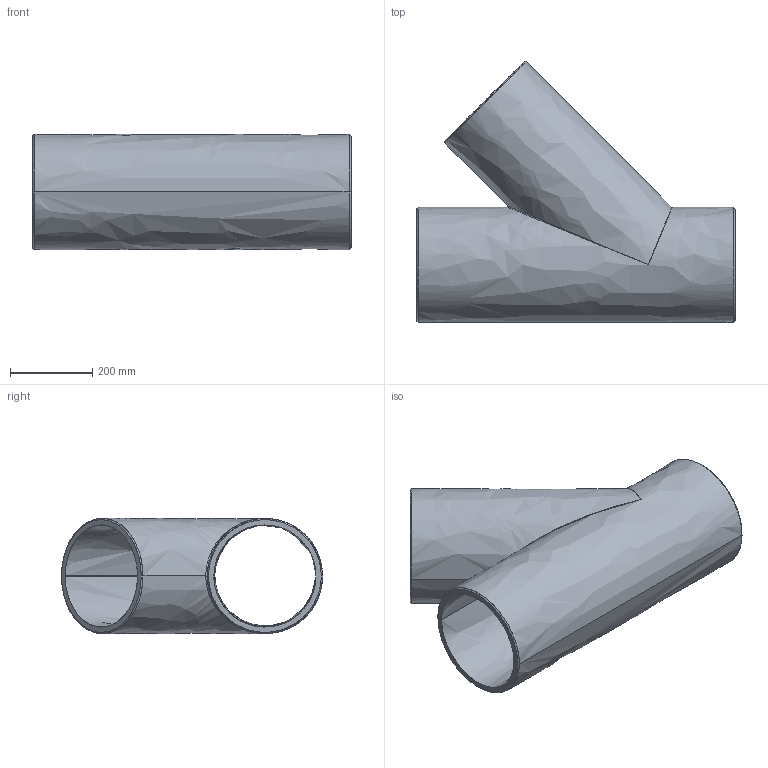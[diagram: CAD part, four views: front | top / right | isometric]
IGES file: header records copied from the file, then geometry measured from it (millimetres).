
Start section:  PTC IGES file: ats45_d280.igs
Global section: file name: ats45_d280.igs; native system: Pro/ENGINEER by Parametric Technology Corporation; preprocessor: 2011490; author: mtunjic; organization: Unknown; date: 20130724.093529; units: millimetre
Bounding box: 773 x 634.27 x 280 mm (x, y, z)
Surface area: 1990645.1 mm2 (no closed solid volume)
Topology: 0 solids, 0 shells, 22 faces, 106 edges, 106 vertices
Faces by surface type: bspline 22
